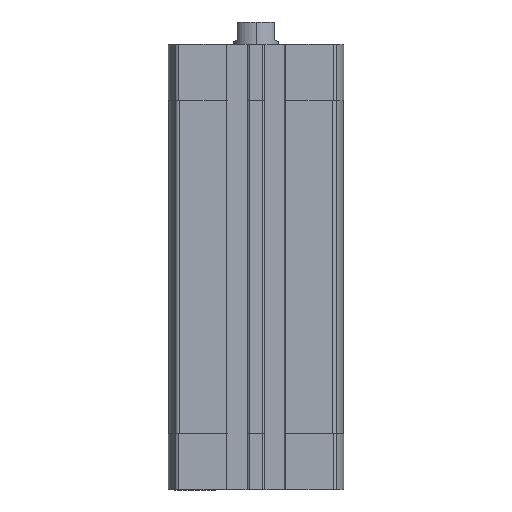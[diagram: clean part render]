
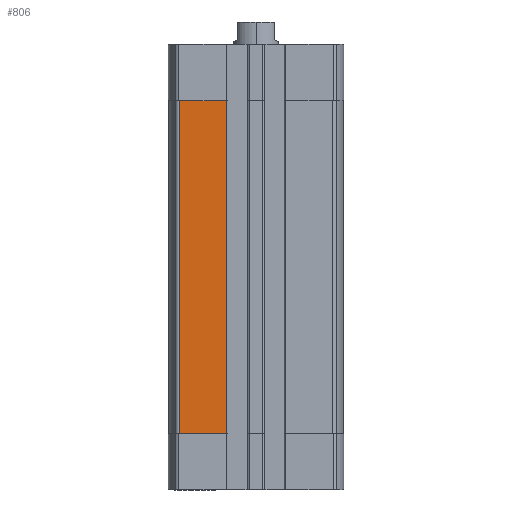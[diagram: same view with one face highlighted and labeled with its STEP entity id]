
A CAD part, left-side view. The second image highlights one B-rep face of the part: STEP entity #806.
In plain terms, the highlighted planar face has unit normal (-1, 0, 0).
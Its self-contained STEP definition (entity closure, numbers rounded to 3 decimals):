
#202 = ORIENTED_EDGE ( 'NONE', *, *, #15311, .F. ) ;
#204 = DIRECTION ( 'NONE',  ( 0., 1., 0. ) ) ;
#520 = EDGE_LOOP ( 'NONE', ( #13725, #202, #6861, #2876 ) ) ;
#806 = ADVANCED_FACE ( 'NONE', ( #12500 ), #13829, .T. ) ;
#1148 = DIRECTION ( 'NONE',  ( 0., 0., 1. ) ) ;
#2067 = CARTESIAN_POINT ( 'NONE',  ( -23.25, 20.543, -104. ) ) ;
#2876 = ORIENTED_EDGE ( 'NONE', *, *, #14692, .T. ) ;
#3281 = DIRECTION ( 'NONE',  ( 0., 0., -1. ) ) ;
#3779 = LINE ( 'NONE', #6950, #6986 ) ;
#3780 = CARTESIAN_POINT ( 'NONE',  ( -23.25, 0., -15. ) ) ;
#4282 = VERTEX_POINT ( 'NONE', #4360 ) ;
#4325 = VECTOR ( 'NONE', #204, 1000. ) ;
#4360 = CARTESIAN_POINT ( 'NONE',  ( -23.25, 7.95, -104. ) ) ;
#5632 = CARTESIAN_POINT ( 'NONE',  ( -23.25, 20.543, -15. ) ) ;
#5701 = VERTEX_POINT ( 'NONE', #5632 ) ;
#5975 = AXIS2_PLACEMENT_3D ( 'NONE', #12474, #12060, #1148 ) ;
#6028 = CARTESIAN_POINT ( 'NONE',  ( -23.25, 7.95, -15. ) ) ;
#6861 = ORIENTED_EDGE ( 'NONE', *, *, #13342, .T. ) ;
#6950 = CARTESIAN_POINT ( 'NONE',  ( -23.25, 20.543, -104. ) ) ;
#6986 = VECTOR ( 'NONE', #14159, 1000. ) ;
#7547 = LINE ( 'NONE', #3780, #4325 ) ;
#7723 = CARTESIAN_POINT ( 'NONE',  ( -23.25, 20.543, -104. ) ) ;
#9246 = LINE ( 'NONE', #2067, #14847 ) ;
#10864 = VERTEX_POINT ( 'NONE', #7723 ) ;
#11747 = CARTESIAN_POINT ( 'NONE',  ( -23.25, 7.95, -104. ) ) ;
#12060 = DIRECTION ( 'NONE',  ( -1., 0., 0. ) ) ;
#12332 = VECTOR ( 'NONE', #12954, 1000. ) ;
#12474 = CARTESIAN_POINT ( 'NONE',  ( -23.25, 20.543, -104. ) ) ;
#12500 = FACE_OUTER_BOUND ( 'NONE', #520, .T. ) ;
#12707 = LINE ( 'NONE', #11747, #12332 ) ;
#12954 = DIRECTION ( 'NONE',  ( 0., 0., -1. ) ) ;
#13126 = EDGE_CURVE ( 'NONE', #10864, #4282, #3779, .T. ) ;
#13342 = EDGE_CURVE ( 'NONE', #14345, #5701, #7547, .T. ) ;
#13725 = ORIENTED_EDGE ( 'NONE', *, *, #13126, .T. ) ;
#13829 = PLANE ( 'NONE',  #5975 ) ;
#14159 = DIRECTION ( 'NONE',  ( 0., -1., 0. ) ) ;
#14345 = VERTEX_POINT ( 'NONE', #6028 ) ;
#14692 = EDGE_CURVE ( 'NONE', #5701, #10864, #9246, .T. ) ;
#14847 = VECTOR ( 'NONE', #3281, 1000. ) ;
#15311 = EDGE_CURVE ( 'NONE', #14345, #4282, #12707, .T. ) ;
